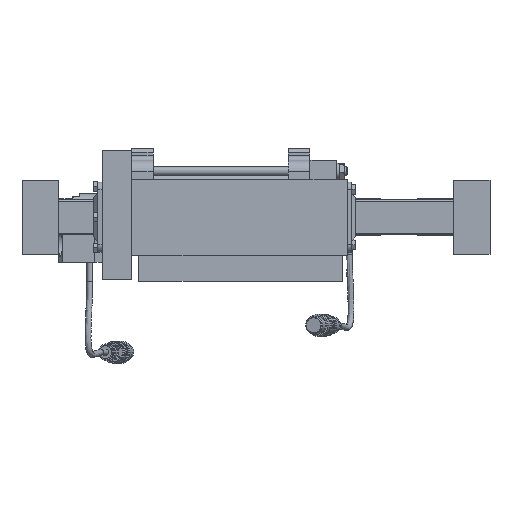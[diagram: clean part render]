
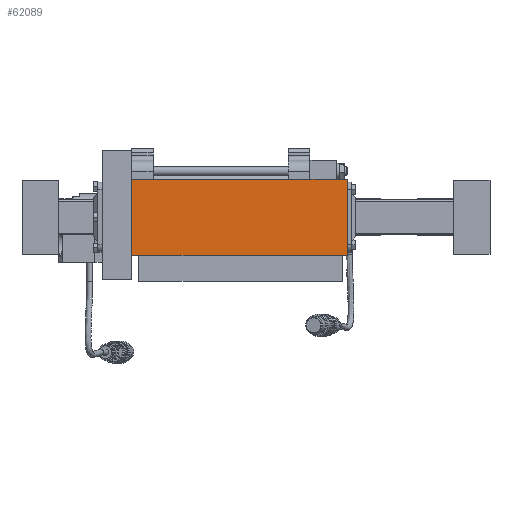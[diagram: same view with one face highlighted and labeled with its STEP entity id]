
A CAD part, left-side view. The second image highlights one B-rep face of the part: STEP entity #62089.
In plain terms, the highlighted planar face has unit normal (-1, 0, 0).
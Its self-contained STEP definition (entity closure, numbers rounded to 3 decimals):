
#3826=PLANE('',#66448);
#6033=FACE_OUTER_BOUND('',#9773,.T.);
#9773=EDGE_LOOP('',(#42719,#42720,#42721,#42722));
#13780=LINE('',#89062,#18628);
#13782=LINE('',#89066,#18630);
#13783=LINE('',#89068,#18631);
#13784=LINE('',#89069,#18632);
#18628=VECTOR('',#73546,10.);
#18630=VECTOR('',#73550,10.);
#18631=VECTOR('',#73551,10.);
#18632=VECTOR('',#73552,10.);
#26164=VERTEX_POINT('',#89059);
#26165=VERTEX_POINT('',#89061);
#26166=VERTEX_POINT('',#89065);
#26167=VERTEX_POINT('',#89067);
#32497=EDGE_CURVE('',#26165,#26164,#13780,.T.);
#32499=EDGE_CURVE('',#26164,#26166,#13782,.T.);
#32500=EDGE_CURVE('',#26167,#26166,#13783,.T.);
#32501=EDGE_CURVE('',#26167,#26165,#13784,.T.);
#42719=ORIENTED_EDGE('',*,*,#32499,.T.);
#42720=ORIENTED_EDGE('',*,*,#32500,.F.);
#42721=ORIENTED_EDGE('',*,*,#32501,.T.);
#42722=ORIENTED_EDGE('',*,*,#32497,.T.);
#62089=ADVANCED_FACE('',(#6033),#3826,.T.);
#66448=AXIS2_PLACEMENT_3D('',#89064,#73548,#73549);
#73546=DIRECTION('',(0.,-1.,0.));
#73548=DIRECTION('center_axis',(-1.,0.,0.));
#73549=DIRECTION('ref_axis',(0.,0.,
-1.));
#73550=DIRECTION('',(0.,0.,1.));
#73551=DIRECTION('',(0.,-1.,0.));
#73552=DIRECTION('',(0.,0.,-1.));
#89059=CARTESIAN_POINT('',(-97.,-73.,9.));
#89061=CARTESIAN_POINT('',(-97.,75.,9.));
#89062=CARTESIAN_POINT('',(-97.,75.,9.));
#89064=CARTESIAN_POINT('Origin',(-97.,75.,9.));
#89065=CARTESIAN_POINT('',(-97.,-73.,61.));
#89066=CARTESIAN_POINT('',(-97.,-73.,61.));
#89067=CARTESIAN_POINT('',(-97.,75.,61.));
#89068=CARTESIAN_POINT('',(-97.,75.,61.));
#89069=CARTESIAN_POINT('',(-97.,75.,61.));
